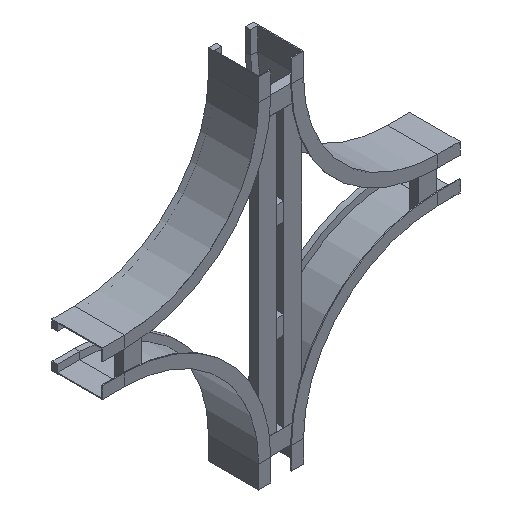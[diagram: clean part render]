
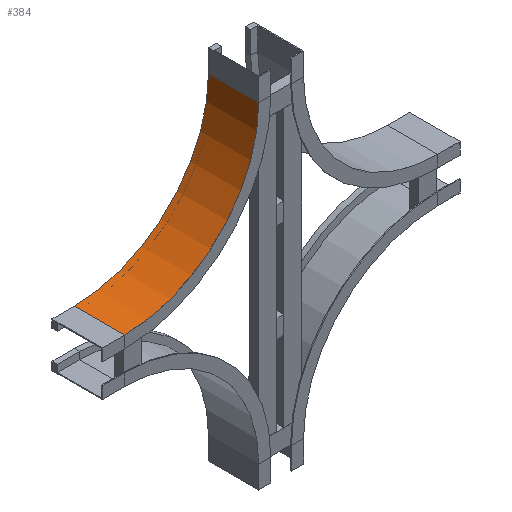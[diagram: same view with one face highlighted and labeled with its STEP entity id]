
A CAD part, isometric view. The second image highlights one B-rep face of the part: STEP entity #384.
In plain terms, the highlighted cylindrical face has radius 300 mm (diameter 600 mm), a partial arc.
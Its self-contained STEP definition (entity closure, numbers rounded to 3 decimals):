
#24 = EDGE_CURVE ( 'NONE', #1002, #870, #1053, .T. ) ;
#62 = AXIS2_PLACEMENT_3D ( 'NONE', #575, #1338, #800 ) ;
#72 = CIRCLE ( 'NONE', #534, 300. ) ;
#102 = DIRECTION ( 'NONE',  ( 0., 1., 0. ) ) ;
#202 = CARTESIAN_POINT ( 'NONE',  ( 300., 0., -350. ) ) ;
#246 = ORIENTED_EDGE ( 'NONE', *, *, #1279, .T. ) ;
#271 = FACE_OUTER_BOUND ( 'NONE', #1101, .T. ) ;
#285 = ORIENTED_EDGE ( 'NONE', *, *, #560, .T. ) ;
#367 = DIRECTION ( 'NONE',  ( 0., -1., 0. ) ) ;
#383 = CARTESIAN_POINT ( 'NONE',  ( 300., 0., -50. ) ) ;
#384 = ADVANCED_FACE ( 'NONE', ( #271 ), #932, .F. ) ;
#401 = VERTEX_POINT ( 'NONE', #1265 ) ;
#433 = VECTOR ( 'NONE', #1008, 1000. ) ;
#521 = LINE ( 'NONE', #975, #433 ) ;
#534 = AXIS2_PLACEMENT_3D ( 'NONE', #1082, #856, #1287 ) ;
#560 = EDGE_CURVE ( 'NONE', #401, #870, #1180, .T. ) ;
#575 = CARTESIAN_POINT ( 'NONE',  ( 300., 112.5, -50. ) ) ;
#724 = DIRECTION ( 'NONE',  ( 0., 0., -1. ) ) ;
#754 = CARTESIAN_POINT ( 'NONE',  ( 0., 0., -50. ) ) ;
#800 = DIRECTION ( 'NONE',  ( -1., 0., 0. ) ) ;
#827 = AXIS2_PLACEMENT_3D ( 'NONE', #383, #367, #724 ) ;
#856 = DIRECTION ( 'NONE',  ( 0., -1., 0. ) ) ;
#870 = VERTEX_POINT ( 'NONE', #1306 ) ;
#889 = EDGE_CURVE ( 'NONE', #1309, #1002, #521, .T. ) ;
#932 = CYLINDRICAL_SURFACE ( 'NONE', #827, 300. ) ;
#975 = CARTESIAN_POINT ( 'NONE',  ( 0., 0., -50. ) ) ;
#985 = ORIENTED_EDGE ( 'NONE', *, *, #24, .F. ) ;
#1002 = VERTEX_POINT ( 'NONE', #1018 ) ;
#1008 = DIRECTION ( 'NONE',  ( 0., 1., 0. ) ) ;
#1018 = CARTESIAN_POINT ( 'NONE',  ( 0., 112.5, -50. ) ) ;
#1053 = CIRCLE ( 'NONE', #62, 300. ) ;
#1082 = CARTESIAN_POINT ( 'NONE',  ( 300., 0., -50. ) ) ;
#1101 = EDGE_LOOP ( 'NONE', ( #985, #1336, #246, #285 ) ) ;
#1180 = LINE ( 'NONE', #202, #1216 ) ;
#1216 = VECTOR ( 'NONE', #102, 1000. ) ;
#1265 = CARTESIAN_POINT ( 'NONE',  ( 300., 0., -350. ) ) ;
#1279 = EDGE_CURVE ( 'NONE', #1309, #401, #72, .T. ) ;
#1287 = DIRECTION ( 'NONE',  ( -1., 0., 0. ) ) ;
#1306 = CARTESIAN_POINT ( 'NONE',  ( 300., 112.5, -350. ) ) ;
#1309 = VERTEX_POINT ( 'NONE', #754 ) ;
#1336 = ORIENTED_EDGE ( 'NONE', *, *, #889, .F. ) ;
#1338 = DIRECTION ( 'NONE',  ( 0., -1., 0. ) ) ;
